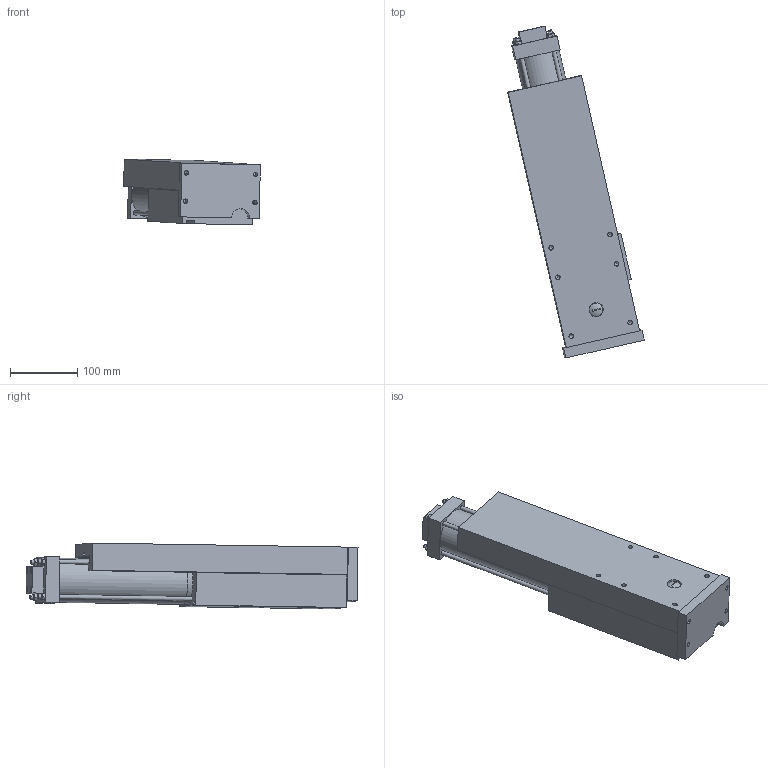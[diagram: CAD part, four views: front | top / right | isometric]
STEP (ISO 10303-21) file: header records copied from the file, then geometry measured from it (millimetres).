
FILE_DESCRIPTION((''),'2;1');
FILE_NAME('C:\VaultWork\Zeichnungen\Maßblätter\H60\VE01524-3-0 Maßblatt Vorschubschlitten H60-160 U.stp','2010-06-23T10:00:48',('Test'),(''),'Autodesk Inventor 2008','Autodesk Inventor 2008','');
FILE_SCHEMA(('AUTOMOTIVE_DESIGN { 1 0 10303 214 1 1 1 1 }'));
Length unit declared in the file: millimetre
Products named in the file (1): VE01524-3-0 Maßblatt Vorschubschlitten H60-160 U
Bounding box: 203.78 x 494.85 x 98.29 mm (x, y, z)
Volume: 3671153.5 mm3; surface area: 355989.7 mm2
Topology: 1 solids, 1 shells, 227 faces, 585 edges, 378 vertices
Faces by surface type: plane 139, bspline 49, cylinder 18, cone 16, torus 4, sphere 1
Full cylindrical faces by diameter (mm): 6 x8, 8.5 x4, 15 x1, 17 x1, 20 x1, 66 x2
Entity records: 7060 total; most frequent: CARTESIAN_POINT 2069, ORIENTED_EDGE 934, DIRECTION 880, EDGE_CURVE 467, EDGE_LOOP 344, VERTEX_POINT 341, AXIS2_PLACEMENT_3D 306, VECTOR 268
